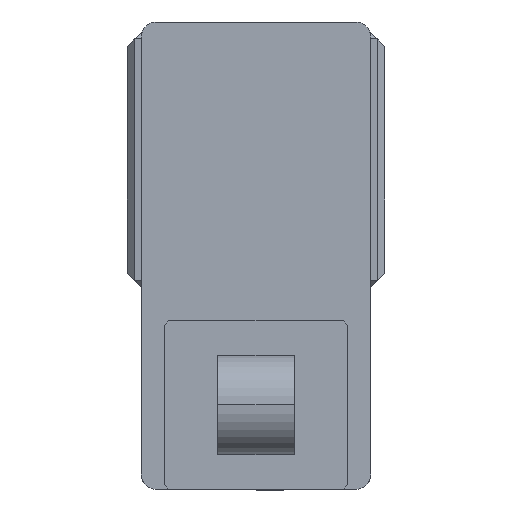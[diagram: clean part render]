
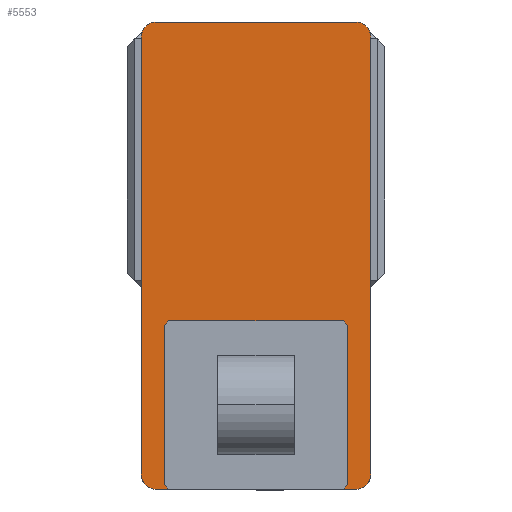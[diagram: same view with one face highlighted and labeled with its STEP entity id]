
A CAD part, left-side view. The second image highlights one B-rep face of the part: STEP entity #5553.
In plain terms, the highlighted planar face has unit normal (-1, 0, 0) as drawn and (0, 0, 1) by its records, which use the part's own axes.
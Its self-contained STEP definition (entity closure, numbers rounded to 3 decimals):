
#153 = VECTOR ( 'NONE', #6491, 1000. ) ;
#311 = DIRECTION ( 'NONE',  ( 1., 0., 0. ) ) ;
#434 = LINE ( 'NONE', #10871, #153 ) ;
#978 = VERTEX_POINT ( 'NONE', #3358 ) ;
#1099 = CARTESIAN_POINT ( 'NONE',  ( -65., -152.5, 105. ) ) ;
#1247 = VERTEX_POINT ( 'NONE', #2991 ) ;
#1408 = CARTESIAN_POINT ( 'NONE',  ( -65., -142.5, 105. ) ) ;
#1575 = DIRECTION ( 'NONE',  ( 0., -1., 0. ) ) ;
#1953 = AXIS2_PLACEMENT_3D ( 'NONE', #1408, #7819, #2362 ) ;
#2025 = AXIS2_PLACEMENT_3D ( 'NONE', #9470, #4159, #10409 ) ;
#2344 = AXIS2_PLACEMENT_3D ( 'NONE', #5000, #11205, #5936 ) ;
#2362 = DIRECTION ( 'NONE',  ( 1., 0., 0. ) ) ;
#2418 = AXIS2_PLACEMENT_3D ( 'NONE', #7454, #4786, #11008 ) ;
#2487 = ORIENTED_EDGE ( 'NONE', *, *, #9201, .T. ) ;
#2990 = AXIS2_PLACEMENT_3D ( 'NONE', #11167, #5903, #311 ) ;
#2991 = CARTESIAN_POINT ( 'NONE',  ( 65., 152.5, 105. ) ) ;
#3188 = ORIENTED_EDGE ( 'NONE', *, *, #9344, .T. ) ;
#3262 = ORIENTED_EDGE ( 'NONE', *, *, #8522, .T. ) ;
#3358 = CARTESIAN_POINT ( 'NONE',  ( -75., -142.5, 105. ) ) ;
#3374 = LINE ( 'NONE', #6648, #10228 ) ;
#3565 = ORIENTED_EDGE ( 'NONE', *, *, #9393, .T. ) ;
#3870 = FACE_OUTER_BOUND ( 'NONE', #9827, .T. ) ;
#4159 = DIRECTION ( 'NONE',  ( 0., 0., 1. ) ) ;
#4347 = VERTEX_POINT ( 'NONE', #9924 ) ;
#4530 = LINE ( 'NONE', #11321, #8969 ) ;
#4687 = ORIENTED_EDGE ( 'NONE', *, *, #8362, .T. ) ;
#4786 = DIRECTION ( 'NONE',  ( 0., 0., 1. ) ) ;
#4944 = CIRCLE ( 'NONE', #2990, 10. ) ;
#5000 = CARTESIAN_POINT ( 'NONE',  ( 65., 142.5, 105. ) ) ;
#5118 = DIRECTION ( 'NONE',  ( 0., 1., 0. ) ) ;
#5553 = ADVANCED_FACE ( 'NONE', ( #3870 ), #9197, .T. ) ;
#5657 = VERTEX_POINT ( 'NONE', #7600 ) ;
#5903 = DIRECTION ( 'NONE',  ( 0., 0., 1. ) ) ;
#5936 = DIRECTION ( 'NONE',  ( 1., 0., 0. ) ) ;
#6243 = CIRCLE ( 'NONE', #2025, 10. ) ;
#6258 = LINE ( 'NONE', #7122, #6533 ) ;
#6491 = DIRECTION ( 'NONE',  ( -1., 0., 0. ) ) ;
#6533 = VECTOR ( 'NONE', #1575, 1000. ) ;
#6648 = CARTESIAN_POINT ( 'NONE',  ( -75., -152.5, 105. ) ) ;
#7122 = CARTESIAN_POINT ( 'NONE',  ( -75., 152.5, 105. ) ) ;
#7454 = CARTESIAN_POINT ( 'NONE',  ( 0., 0., 105. ) ) ;
#7519 = DIRECTION ( 'NONE',  ( 1., 0., 0. ) ) ;
#7600 = CARTESIAN_POINT ( 'NONE',  ( -75., 142.5, 105. ) ) ;
#7819 = DIRECTION ( 'NONE',  ( 0., 0., 1. ) ) ;
#8020 = CIRCLE ( 'NONE', #1953, 10. ) ;
#8362 = EDGE_CURVE ( 'NONE', #11699, #9467, #4530, .T. ) ;
#8520 = CARTESIAN_POINT ( 'NONE',  ( 65., -152.5, 105. ) ) ;
#8522 = EDGE_CURVE ( 'NONE', #1247, #4347, #434, .T. ) ;
#8644 = CARTESIAN_POINT ( 'NONE',  ( 75., -142.5, 105. ) ) ;
#8672 = CARTESIAN_POINT ( 'NONE',  ( 75., 142.5, 105. ) ) ;
#8916 = EDGE_CURVE ( 'NONE', #5657, #978, #6258, .T. ) ;
#8969 = VECTOR ( 'NONE', #5118, 1000. ) ;
#9107 = CIRCLE ( 'NONE', #2344, 10. ) ;
#9197 = PLANE ( 'NONE',  #2418 ) ;
#9201 = EDGE_CURVE ( 'NONE', #11445, #9345, #3374, .T. ) ;
#9292 = ORIENTED_EDGE ( 'NONE', *, *, #8916, .T. ) ;
#9313 = EDGE_CURVE ( 'NONE', #9345, #11699, #4944, .T. ) ;
#9344 = EDGE_CURVE ( 'NONE', #9467, #1247, #9107, .T. ) ;
#9345 = VERTEX_POINT ( 'NONE', #8520 ) ;
#9393 = EDGE_CURVE ( 'NONE', #4347, #5657, #6243, .T. ) ;
#9458 = EDGE_CURVE ( 'NONE', #978, #11445, #8020, .T. ) ;
#9467 = VERTEX_POINT ( 'NONE', #8672 ) ;
#9470 = CARTESIAN_POINT ( 'NONE',  ( -65., 142.5, 105. ) ) ;
#9827 = EDGE_LOOP ( 'NONE', ( #2487, #11624, #4687, #3188, #3262, #3565, #9292, #9983 ) ) ;
#9924 = CARTESIAN_POINT ( 'NONE',  ( -65., 152.5, 105. ) ) ;
#9983 = ORIENTED_EDGE ( 'NONE', *, *, #9458, .T. ) ;
#10228 = VECTOR ( 'NONE', #7519, 1000. ) ;
#10409 = DIRECTION ( 'NONE',  ( 1., 0., 0. ) ) ;
#10871 = CARTESIAN_POINT ( 'NONE',  ( -75., 152.5, 105. ) ) ;
#11008 = DIRECTION ( 'NONE',  ( 1., 0., 0. ) ) ;
#11167 = CARTESIAN_POINT ( 'NONE',  ( 65., -142.5, 105. ) ) ;
#11205 = DIRECTION ( 'NONE',  ( 0., 0., 1. ) ) ;
#11321 = CARTESIAN_POINT ( 'NONE',  ( 75., 152.5, 105. ) ) ;
#11445 = VERTEX_POINT ( 'NONE', #1099 ) ;
#11624 = ORIENTED_EDGE ( 'NONE', *, *, #9313, .T. ) ;
#11699 = VERTEX_POINT ( 'NONE', #8644 ) ;
